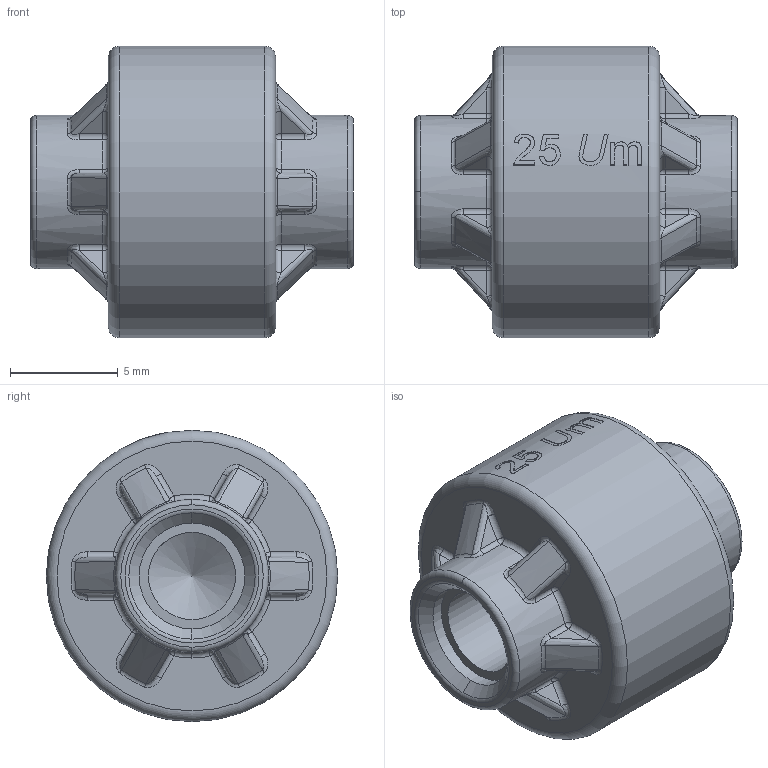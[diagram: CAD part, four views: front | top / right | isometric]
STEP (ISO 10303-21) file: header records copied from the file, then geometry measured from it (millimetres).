
FILE_DESCRIPTION(/* description */ ('SolidWorks IGES file using NURBS representation for surfaces '),/* implementation_level */ '2;1');
FILE_NAME(/* name */ 'K:\Normteile INVENTOR\Air-Logic\Filters\F-970-25.IGS.ipt.stp',/* time_stamp */ '2020-05-27T10:40:10+02:00',/* author */ ('amarsh'),/* organization */ (''),/* preprocessor_version */ 'ST-DEVELOPER v18',/* originating_system */ 'Autodesk Inventor 2020',/* authorisation */ '');
FILE_SCHEMA (('AUTOMOTIVE_DESIGN { 1 0 10303 214 3 1 1 }'));
Length unit declared in the file: millimetre
Products named in the file (1): F-970-25.IGS
Bounding box: 14.95 x 13.5 x 13.5 mm (x, y, z)
Volume: 1244.5 mm3; surface area: 911.4 mm2
Topology: 1 solids, 1 shells, 313 faces, 765 edges, 448 vertices
Faces by surface type: bspline 113, cylinder 63, plane 49, torus 46, sphere 24, cone 18
Full cylindrical faces by diameter (mm): 4.039 x2, 4.9 x2, 7.1 x2, 13.5 x1
Entity records: 17224 total; most frequent: CARTESIAN_POINT 10505, ORIENTED_EDGE 1498, DIRECTION 1283, EDGE_CURVE 749, AXIS2_PLACEMENT_3D 545, VERTEX_POINT 448, CIRCLE 332, EDGE_LOOP 323
